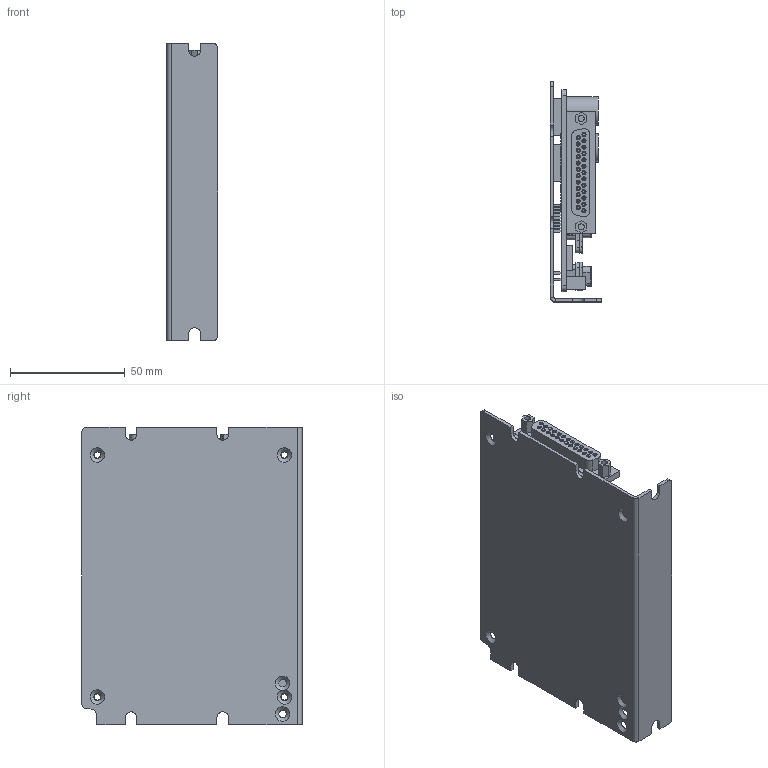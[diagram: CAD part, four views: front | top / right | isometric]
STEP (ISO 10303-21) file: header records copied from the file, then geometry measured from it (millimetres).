
FILE_DESCRIPTION (( 'STEP AP203' ), '1' );
FILE_NAME ('煦嫖縐郪璃.STEP', '2019-08-07T09:57:17', ( 'Windows 蚚誧' ), ( '' ), 'SwSTEP 2.0', 'SolidWorks 2016', '' );
FILE_SCHEMA (( 'CONFIG_CONTROL_DESIGN' ));
Length unit declared in the file: millimetre
Products named in the file (1): 煦嫖縐郪璃
Bounding box: 22.3 x 96 x 130 mm (x, y, z)
Volume: 66210.6 mm3; surface area: 63743.4 mm2
Topology: 8 solids, 8 shells, 675 faces, 1523 edges, 967 vertices
Faces by surface type: plane 471, cylinder 165, cone 31, bspline 8
Full cylindrical faces by diameter (mm): 0.711 x25, 0.991 x18, 1 x25, 2.248 x2, 2.413 x3, 2.609 x2, 2.667 x1, 2.75 x4, 2.8 x2, 3.048 x4, 3.4 x6, 12.5 x4
Entity records: 18195 total; most frequent: CARTESIAN_POINT 3160, DIRECTION 3090, ORIENTED_EDGE 2788, EDGE_CURVE 1394, LINE 1032, VECTOR 1032, AXIS2_PLACEMENT_3D 1029, VERTEX_POINT 965
